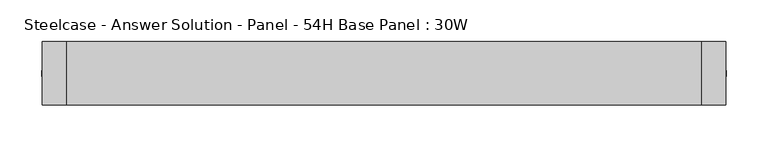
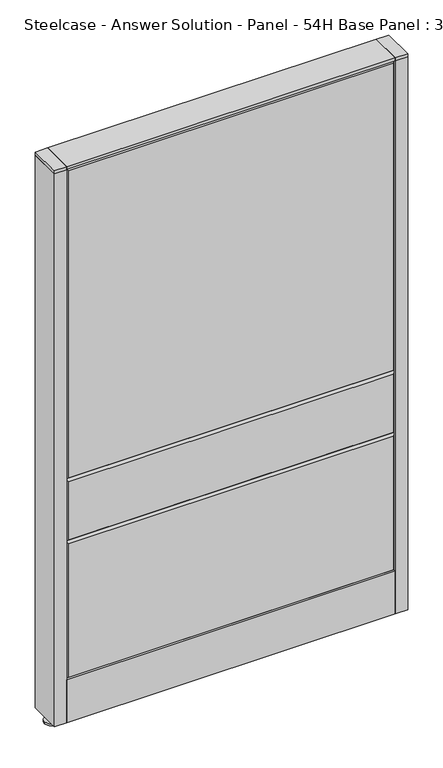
"""IFC4 building model written with IfcOpenShell, lengths in millimetres: furniture geometry, Steelcase - Answer Solution - Panel - 54H Base Panel : 30W."""

from ifc_helpers import new_model, si_unit, point, frame, frame_2d, origin, place, context, project, spatial, polyline, circle_curve, trimmed, segment, composite_curve, outline, extrude, faceted_brep, source, transform, mapped, element, save


def steelcase_answer_solution_panel_54h_base_panel_30w_3fe9bcc9(model_context):
    return source(origin(), model_context, "Body", "SolidModel", [
        extrude(outline(composite_curve([segment(trimmed(circle_curve(frame_2d((395.224, 0.0320214)), 5.08), [point((400.304, 0.0320214))], [point((390.144, 0.0320214))], False, "CARTESIAN"), True, "CONTINUOUS"), segment(trimmed(circle_curve(frame_2d((395.224, 0.0320214)), 5.08), [point((390.144, 0.0320214))], [point((400.304, 0.0320214))], False, "CARTESIAN"), True, "CONTINUOUS")], self_intersect=False)), frame((0.0, 0.0, 5.0799671), z_axis=(0.0, 0.0, 1.0), x_axis=(1.0, 0.0, 0.0)), (0.0, 0.0, 1.0), 10.414),
        extrude(outline(composite_curve([segment(trimmed(circle_curve(frame_2d((395.224, 0.0320214)), 15.24), [point((410.464, 0.0320214))], [point((379.984, 0.0320214))], False, "CARTESIAN"), True, "CONTINUOUS"), segment(trimmed(circle_curve(frame_2d((395.224, 0.0320214)), 15.24), [point((379.984, 0.0320214))], [point((410.464, 0.0320214))], False, "CARTESIAN"), True, "CONTINUOUS")], self_intersect=False)), frame((0.0, 0.0, -3.29e-05), z_axis=(0.0, 0.0, 1.0), x_axis=(1.0, 0.0, 0.0)), (0.0, 0.0, 1.0), 5.08),
        extrude(outline(polyline([(409.575, 38.1320408), (409.575, -38.0679592), (381.0, -38.0679592), (381.0, 38.1320408), (409.575, 38.1320408)])), frame((0.0, 0.0, 1370.6348), z_axis=(0.0, 0.0, 1.0), x_axis=(1.0, 0.0, 0.0)), (0.0, 0.0, 1.0), 7.3151671),
        extrude(outline(polyline([(409.575, 38.1320408), (409.575, -38.0679592), (381.0, -38.0679592), (381.0, 38.1320408), (409.575, 38.1320408)])), frame((0.0, 0.0, 15.4939671), z_axis=(0.0, 0.0, 1.0), x_axis=(1.0, 0.0, 0.0)), (0.0, 0.0, 1.0), 1355.1408329),
        extrude(outline(composite_curve([segment(trimmed(circle_curve(frame_2d((-395.224, 0.0320214)), 5.08), [point((-400.304, 0.0320214))], [point((-390.144, 0.0320214))], False, "CARTESIAN"), True, "CONTINUOUS"), segment(trimmed(circle_curve(frame_2d((-395.224, 0.0320214)), 5.08), [point((-390.144, 0.0320214))], [point((-400.304, 0.0320214))], False, "CARTESIAN"), True, "CONTINUOUS")], self_intersect=False)), frame((0.0, 0.0, 5.0799671), z_axis=(0.0, 0.0, 1.0), x_axis=(1.0, 0.0, 0.0)), (0.0, 0.0, 1.0), 10.414),
        extrude(outline(composite_curve([segment(trimmed(circle_curve(frame_2d((-395.224, 0.0320214)), 15.24), [point((-410.464, 0.0320214))], [point((-379.984, 0.0320214))], False, "CARTESIAN"), True, "CONTINUOUS"), segment(trimmed(circle_curve(frame_2d((-395.224, 0.0320214)), 15.24), [point((-379.984, 0.0320214))], [point((-410.464, 0.0320214))], False, "CARTESIAN"), True, "CONTINUOUS")], self_intersect=False)), frame((0.0, 0.0, -3.29e-05), z_axis=(0.0, 0.0, 1.0), x_axis=(1.0, 0.0, 0.0)), (0.0, 0.0, 1.0), 5.08),
        extrude(outline(polyline([(-409.575, 38.1320408), (-381.0, 38.1320408), (-381.0, -38.0679592), (-409.575, -38.0679592), (-409.575, 38.1320408)])), frame((0.0, 0.0, 1370.6348), z_axis=(0.0, 0.0, 1.0), x_axis=(1.0, 0.0, 0.0)), (0.0, 0.0, 1.0), 7.3151671),
        extrude(outline(polyline([(-409.575, 38.1320408), (-381.0, 38.1320408), (-381.0, -38.0679592), (-409.575, -38.0679592), (-409.575, 38.1320408)])), frame((0.0, 0.0, 15.4939671), z_axis=(0.0, 0.0, 1.0), x_axis=(1.0, 0.0, 0.0)), (0.0, 0.0, 1.0), 1355.1408329),
        faceted_brep([(-376.174, 38.1635011, 1366.774), (376.174, 38.1635011, 1366.774), (376.174, 38.1635011, 614.426), (-376.174, 38.1635011, 614.426), (-381.0, 33.3375011, 1371.6), (-381.0, 33.3375011, 609.6), (381.0, 33.3375011, 609.6), (381.0, 33.3375011, 1371.6)], [[[0, 1, 2, 3]], [[4, 5, 6, 7]], [[4, 7, 1, 0]], [[7, 6, 2, 1]], [[6, 5, 3, 2]], [[5, 4, 0, 3]]]),
        faceted_brep([(-376.174, 38.1635011, 604.774), (376.174, 38.1635011, 604.774), (376.174, 38.1635011, 462.026), (-376.174, 38.1635011, 462.026), (-381.0, 33.3375011, 609.6), (-381.0, 33.3375011, 457.2), (381.0, 33.3375011, 457.2), (381.0, 33.3375011, 609.6)], [[[0, 1, 2, 3]], [[4, 5, 6, 7]], [[4, 7, 1, 0]], [[7, 6, 2, 1]], [[6, 5, 3, 2]], [[5, 4, 0, 3]]]),
        faceted_brep([(-376.174, 38.1635011, 452.374), (376.174, 38.1635011, 452.374), (376.174, 38.1635011, 125.476), (-376.174, 38.1635011, 125.476), (-381.0, 33.3375011, 457.2), (-381.0, 33.3375011, 120.65), (381.0, 33.3375011, 120.65), (381.0, 33.3375011, 457.2)], [[[0, 1, 2, 3]], [[4, 5, 6, 7]], [[4, 7, 1, 0]], [[7, 6, 2, 1]], [[6, 5, 3, 2]], [[5, 4, 0, 3]]]),
        faceted_brep([(376.174, -38.1635011, 1366.774), (-376.174, -38.1635011, 1366.774), (-376.174, -38.1635011, 614.426), (376.174, -38.1635011, 614.426), (381.0, -33.3375011, 1371.6), (381.0, -33.3375011, 609.6), (-381.0, -33.3375011, 609.6), (-381.0, -33.3375011, 1371.6)], [[[0, 1, 2, 3]], [[4, 5, 6, 7]], [[4, 7, 1, 0]], [[7, 6, 2, 1]], [[6, 5, 3, 2]], [[5, 4, 0, 3]]]),
        faceted_brep([(376.174, -38.1635011, 604.774), (-376.174, -38.1635011, 604.774), (-376.174, -38.1635011, 462.026), (376.174, -38.1635011, 462.026), (381.0, -33.3375011, 609.6), (381.0, -33.3375011, 457.2), (-381.0, -33.3375011, 457.2), (-381.0, -33.3375011, 609.6)], [[[0, 1, 2, 3]], [[4, 5, 6, 7]], [[4, 7, 1, 0]], [[7, 6, 2, 1]], [[6, 5, 3, 2]], [[5, 4, 0, 3]]]),
        faceted_brep([(376.174, -38.1635011, 452.374), (-376.174, -38.1635011, 452.374), (-376.174, -38.1635011, 125.476), (376.174, -38.1635011, 125.476), (381.0, -33.3375011, 457.2), (381.0, -33.3375011, 120.65), (-381.0, -33.3375011, 120.65), (-381.0, -33.3375011, 457.2)], [[[0, 1, 2, 3]], [[4, 5, 6, 7]], [[4, 7, 1, 0]], [[7, 6, 2, 1]], [[6, 5, 3, 2]], [[5, 4, 0, 3]]]),
        extrude(outline(polyline([(381.0, 38.1000194), (381.0, -38.1000194), (-381.0, -38.1000194), (-381.0, 38.1000194), (381.0, 38.1000194)])), frame((0.0, 0.0, 1371.6), z_axis=(0.0, 0.0, 1.0), x_axis=(1.0, 0.0, 0.0)), (0.0, 0.0, 1.0), 6.35),
        extrude(outline(polyline([(25.4000011, 119.8575157), (25.4000011, 120.65), (38.1000194, 120.65), (38.1000194, 15.494), (37.3075215, 15.494), (37.3075215, 119.8575157), (25.4000011, 119.8575157)])), frame((-381.0, 0.0, 0.0), z_axis=(1.0, 0.0, 0.0), x_axis=(0.0, 1.0, 0.0)), (0.0, 0.0, 1.0), 762.0),
        extrude(outline(polyline([(-25.4000011, 119.8575157), (-37.3075215, 119.8575157), (-37.3075215, 15.494), (-38.1000194, 15.494), (-38.1000194, 120.65), (-25.4000011, 120.65), (-25.4000011, 119.8575157)])), frame((-381.0, 0.0, 0.0), z_axis=(1.0, 0.0, 0.0), x_axis=(0.0, 1.0, 0.0)), (0.0, 0.0, 1.0), 762.0),
    ])


if __name__ == "__main__":
    model = new_model("IFC4")
    model_context = context("Model", 3, world=origin())
    ifc_project = project(units=[si_unit("LENGTHUNIT", "METRE", prefix="MILLI")], contexts=[model_context])
    site = spatial("IfcSite", under=ifc_project)
    building = spatial("IfcBuilding", under=site)
    placement = place(None, origin())
    steelcase_answer_solution_panel_54h_base_panel_30w_shape = steelcase_answer_solution_panel_54h_base_panel_30w_3fe9bcc9(model_context)
    element("IfcFurniture", 1, ObjectType="Steelcase - Answer Solution - Panel - 54H Base Panel : 30W", at=placement, inside=building, context=model_context, shape_type="MappedRepresentation", body=[
        mapped(steelcase_answer_solution_panel_54h_base_panel_30w_shape, transform((0.0, 0.0, 0.0), x_axis=(1.0, 0.0, 0.0), y_axis=(0.0, 1.0, 0.0), z_axis=(0.0, 0.0, 1.0))),
    ])
    save(model, "model.ifc")
